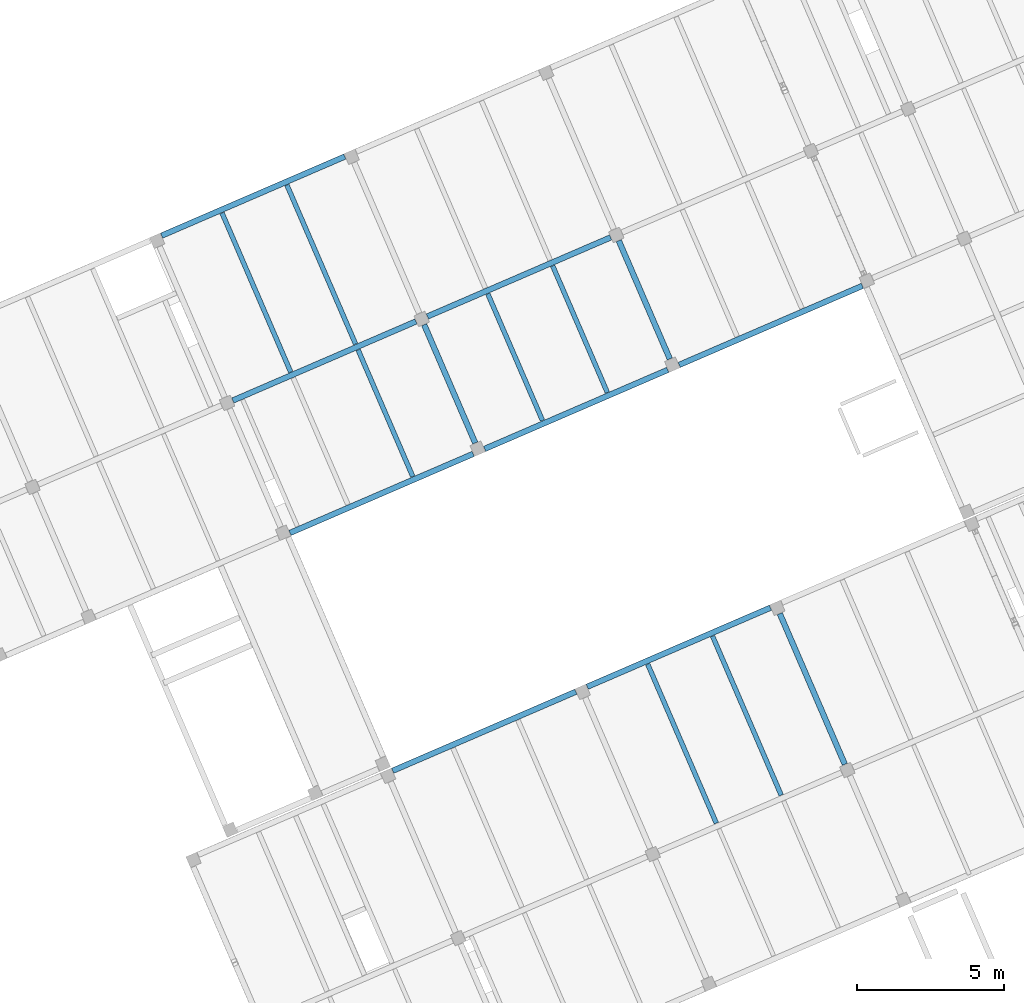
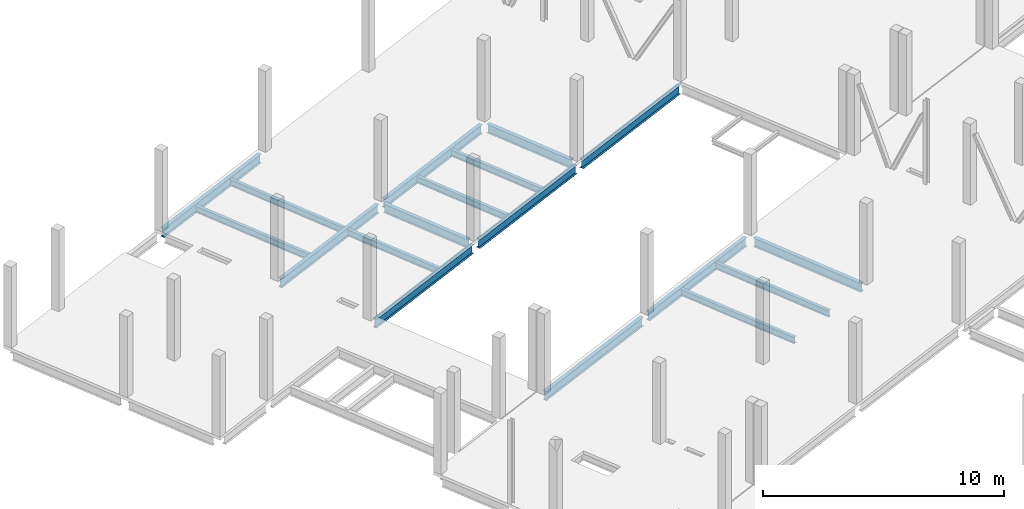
# One storey, part 15 of 24: 18 beams.
"""IFC4 building model written with IfcOpenShell, lengths in metres."""

from ifc_helpers import new_model, entity, si_unit, converted_unit, derived_unit, direction, frame, origin, place, context, subcontext, project, spatial, line, arc, indexed_curve, outline, extrude, source, transform, mapped, material, type_object, type_shapes, element, save


model = new_model("IFC4")

# Units and contexts
model_context = context("Model", 3, precision=1e-05, world=origin(), true_north=direction((6.12323399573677e-17, 1.0)))
body_context = subcontext(model_context, "Body", "Model", "MODEL_VIEW")
ifc_project = project(units=[si_unit("LENGTHUNIT", "METRE"), si_unit("AREAUNIT", "SQUARE_METRE"), si_unit("VOLUMEUNIT", "CUBIC_METRE"), converted_unit("PLANEANGLEUNIT", "DEGREE", entity("IfcPlaneAngleMeasure", 0.0174532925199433), si_unit("PLANEANGLEUNIT", "RADIAN"), dimensions=[0, 0, 0, 0, 0, 0, 0]), si_unit("MASSUNIT", "GRAM", prefix="KILO"), derived_unit("MOMENTOFINERTIAUNIT", [(si_unit("LENGTHUNIT", "METRE"), 4)]), derived_unit("LINEARFORCEUNIT", [(si_unit("MASSUNIT", "GRAM", prefix="KILO"), 1), (si_unit("TIMEUNIT", "SECOND"), -2)]), derived_unit("WARPINGCONSTANTUNIT", [(si_unit("LENGTHUNIT", "METRE"), 6)]), derived_unit("THERMALTRANSMITTANCEUNIT", [(si_unit("MASSUNIT", "GRAM", prefix="KILO"), 1), (si_unit("THERMODYNAMICTEMPERATUREUNIT", "KELVIN"), -1), (si_unit("TIMEUNIT", "SECOND"), -3)]), derived_unit("USERDEFINED", [(si_unit("MASSUNIT", "GRAM", prefix="KILO"), 1), (si_unit("TIMEUNIT", "SECOND"), -2), (si_unit("THERMODYNAMICTEMPERATUREUNIT", "KELVIN"), -1)]), derived_unit("THERMALRESISTANCEUNIT", [(si_unit("MASSUNIT", "GRAM", prefix="KILO"), -1), (si_unit("TIMEUNIT", "SECOND"), 3), (si_unit("THERMODYNAMICTEMPERATUREUNIT", "KELVIN"), 1)])], contexts=[model_context])

# Site, building, storey
site_placement = place(None, origin())
site = spatial("IfcSite", under=ifc_project, at=site_placement, Name="Default", CompositionType="ELEMENT")
building_placement = place(site_placement, frame((12.6613425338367, -82.5732315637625, 317.15), z_axis=(0.0, 0.0, 1.0), x_axis=(-0.396377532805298, 0.918087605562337, 0.0)))
building = spatial("IfcBuilding", under=site, at=building_placement, Name="CESFAM Coyhaique", CompositionType="ELEMENT")
storey_placement = place(building_placement, frame((0.0, 0.0, 4.20000000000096)))
storey = spatial("IfcBuildingStorey", under=building, at=storey_placement, Name="Nivel 2", CompositionType="ELEMENT", Elevation=4.20000000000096)

# Beams
ifc_material = material(Name="Steel, 45-345", Category="Metal")
beam_type_1 = type_object("IfcBeamType", Name="M_W Shapes:W450X190mm", PredefinedType="BEAM", material=ifc_material)
shared_shape_1 = source(origin(), body_context, "Body", "SweptSolid", [
    extrude(outline(indexed_curve([(-0.0950000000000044, -0.225000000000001), (0.0949999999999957, -0.225000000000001), (0.0949999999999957, -0.21535), (0.0105699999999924, -0.21535), (0.00516063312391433, -0.213109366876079), (0.00291999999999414, -0.2077), (0.00291999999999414, 0.207699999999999), (0.00516063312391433, 0.213109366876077), (0.0105699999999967, 0.21535), (0.0949999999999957, 0.21535), (0.0949999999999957, 0.224999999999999), (-0.0950000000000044, 0.224999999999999), (-0.0950000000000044, 0.21535), (-0.0105700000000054, 0.215349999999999), (-0.00516063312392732, 0.213109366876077), (-0.00292000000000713, 0.207699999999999), (-0.00292000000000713, -0.2077), (-0.00516063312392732, -0.213109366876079), (-0.0105700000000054, -0.21535), (-0.0950000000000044, -0.21535)], segments=[line(1, 2, 3, 4), arc(4, 5, 6), line(6, 7), arc(7, 8, 9), line(9, 10, 11, 12, 13, 14), arc(14, 15, 16), line(16, 17), arc(17, 18, 19), line(19, 20, 1)], self_intersect=False)), frame((34.868853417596, 3.0155504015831, 3.82500000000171), z_axis=(0.0, 1.0, 0.0), x_axis=(-1.0, 0.0, 0.0)), (0.0, 0.0, 1.0), 6.7746),
])
type_shapes(beam_type_1, [shared_shape_1])
beam_1_placement = place(storey_placement, frame((0.0, 0.0, -4.20000000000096)))
element("IfcBeam", 1, at=beam_1_placement, inside=storey, type_object=beam_type_1, Name="M_W Shapes:W450X190mm", ObjectType="M_W Shapes:W450X190mm", PredefinedType="BEAM", context=body_context, shape_type="MappedRepresentation", body=[
    mapped(shared_shape_1, transform((0.0, 0.0, 0.0), scale=1.0)),
])
beam_type_2 = type_object("IfcBeamType", Name="M_W Shapes:W450X190mm", PredefinedType="BEAM", material=ifc_material)
shared_shape_2 = source(origin(), body_context, "Body", "SweptSolid", [
    extrude(outline(indexed_curve([(-0.0950000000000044, -0.225000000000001), (0.0949999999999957, -0.225000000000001), (0.0949999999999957, -0.21535), (0.0105699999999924, -0.21535), (0.00516063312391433, -0.213109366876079), (0.00291999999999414, -0.2077), (0.00291999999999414, 0.207699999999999), (0.00516063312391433, 0.213109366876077), (0.0105699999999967, 0.21535), (0.0949999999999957, 0.21535), (0.0949999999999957, 0.224999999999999), (-0.0950000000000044, 0.224999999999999), (-0.0950000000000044, 0.21535), (-0.0105700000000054, 0.215349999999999), (-0.00516063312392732, 0.213109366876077), (-0.00292000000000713, 0.207699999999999), (-0.00292000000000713, -0.2077), (-0.00516063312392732, -0.213109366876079), (-0.0105700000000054, -0.21535), (-0.0950000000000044, -0.21535)], segments=[line(1, 2, 3, 4), arc(4, 5, 6), line(6, 7), arc(7, 8, 9), line(9, 10, 11, 12, 13, 14), arc(14, 15, 16), line(16, 17), arc(17, 18, 19), line(19, 20, 1)], self_intersect=False)), frame((34.868853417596, -4.18444959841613, 3.82500000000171), z_axis=(0.0, 1.0, 0.0), x_axis=(-1.0, 0.0, 0.0)), (0.0, 0.0, 1.0), 6.7746),
])
type_shapes(beam_type_2, [shared_shape_2])
beam_2_placement = place(storey_placement, frame((0.0, 0.0, -4.20000000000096)))
element("IfcBeam", 2, at=beam_2_placement, inside=storey, type_object=beam_type_2, Name="M_W Shapes:W450X190mm", ObjectType="M_W Shapes:W450X190mm", PredefinedType="BEAM", context=body_context, shape_type="MappedRepresentation", body=[
    mapped(shared_shape_2, transform((0.0, 0.0, 0.0), scale=1.0)),
])
beam_type_3 = type_object("IfcBeamType", Name="M_W Shapes:W450X190mm", PredefinedType="BEAM", material=ifc_material)
shared_shape_3 = source(origin(), body_context, "Body", "SweptSolid", [
    extrude(outline(indexed_curve([(-0.225, -0.0950000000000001), (-0.215350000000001, -0.0950000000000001), (-0.21535, -0.01057), (-0.213109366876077, -0.00516063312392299), (-0.2077, -0.00291999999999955), (0.207699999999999, -0.00292000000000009), (0.213109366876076, -0.00516063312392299), (0.215349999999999, -0.01057), (0.215349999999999, -0.0950000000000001), (0.225, -0.0950000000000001), (0.225, 0.0950000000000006), (0.215349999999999, 0.0950000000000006), (0.215349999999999, 0.0105700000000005), (0.213109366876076, 0.00516063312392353), (0.207699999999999, 0.00292000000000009), (-0.2077, 0.00292000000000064), (-0.213109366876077, 0.00516063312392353), (-0.215350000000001, 0.0105700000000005), (-0.215350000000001, 0.0949999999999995), (-0.225, 0.0949999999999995)], segments=[line(1, 2, 3), arc(3, 4, 5), line(5, 6), arc(6, 7, 8), line(8, 9, 10, 11, 12, 13), arc(13, 14, 15), line(15, 16), arc(16, 17, 18), line(18, 19, 20, 1)], self_intersect=False)), frame((28.981553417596, -4.39714959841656, 3.82500000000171), z_axis=(1.0, 0.0, 0.0), x_axis=(0.0, 0.0, -1.0)), (0.0, 0.0, 1.0), 5.5746),
])
type_shapes(beam_type_3, [shared_shape_3])
beam_3_placement = place(storey_placement, frame((0.0, 0.0, -4.20000000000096)))
element("IfcBeam", 3, at=beam_3_placement, inside=storey, type_object=beam_type_3, Name="M_W Shapes:W450X190mm", ObjectType="M_W Shapes:W450X190mm", PredefinedType="BEAM", context=body_context, shape_type="MappedRepresentation", body=[
    mapped(shared_shape_3, transform((0.0, 0.0, 0.0), scale=1.0)),
])
beam_type_4 = type_object("IfcBeamType", Name="M_W Shapes:W450X190mm", PredefinedType="BEAM", material=ifc_material)
shared_shape_4 = source(origin(), body_context, "Body", "SweptSolid", [
    extrude(outline(indexed_curve([(-0.0949999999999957, -0.225000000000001), (0.0950000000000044, -0.225000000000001), (0.0950000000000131, -0.21535), (0.0105700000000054, -0.21535), (0.00516063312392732, -0.213109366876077), (0.00292000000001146, -0.2077), (0.0029200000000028, 0.207699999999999), (0.00516063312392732, 0.213109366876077), (0.0105700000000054, 0.21535), (0.0950000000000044, 0.21535), (0.0950000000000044, 0.224999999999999), (-0.0949999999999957, 0.224999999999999), (-0.0949999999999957, 0.21535), (-0.0105699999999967, 0.215349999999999), (-0.00516063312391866, 0.213109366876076), (-0.00291999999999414, 0.207699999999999), (-0.00291999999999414, -0.2077), (-0.00516063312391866, -0.213109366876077), (-0.0105699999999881, -0.21535), (-0.0949999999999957, -0.21535)], segments=[line(1, 2, 3, 4), arc(4, 5, 6), line(6, 7), arc(7, 8, 9), line(9, 10, 11, 12, 13, 14), arc(14, 15, 16), line(16, 17), arc(17, 18, 19), line(19, 20, 1)], self_intersect=False)), frame((43.6688534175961, -11.384449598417, 3.82500000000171), z_axis=(0.0, 1.0, 0.0), x_axis=(-1.0, 0.0, 0.0)), (0.0, 0.0, 1.0), 6.7746),
])
type_shapes(beam_type_4, [shared_shape_4])
beam_4_placement = place(storey_placement, frame((0.0, 0.0, -4.20000000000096)))
element("IfcBeam", 4, at=beam_4_placement, inside=storey, type_object=beam_type_4, Name="M_W Shapes:W450X190mm", ObjectType="M_W Shapes:W450X190mm", PredefinedType="BEAM", context=body_context, shape_type="MappedRepresentation", body=[
    mapped(shared_shape_4, transform((0.0, 0.0, 0.0), scale=1.0)),
])
beam_type_5 = type_object("IfcBeamType", Name="M_W Shapes:W450X190mm", PredefinedType="BEAM", material=ifc_material)
shared_shape_5 = source(origin(), body_context, "Body", "SweptSolid", [
    extrude(outline(indexed_curve([(-0.0949999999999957, -0.225000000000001), (0.0950000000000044, -0.225000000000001), (0.0950000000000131, -0.21535), (0.0105700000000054, -0.21535), (0.00516063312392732, -0.213109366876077), (0.00292000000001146, -0.2077), (0.0029200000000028, 0.207699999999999), (0.00516063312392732, 0.213109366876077), (0.0105700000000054, 0.21535), (0.0950000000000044, 0.21535), (0.0950000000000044, 0.224999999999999), (-0.0949999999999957, 0.224999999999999), (-0.0949999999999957, 0.21535), (-0.0105699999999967, 0.215349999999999), (-0.00516063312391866, 0.213109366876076), (-0.00291999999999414, 0.207699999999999), (-0.00291999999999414, -0.2077), (-0.00516063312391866, -0.213109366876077), (-0.0105699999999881, -0.21535), (-0.0949999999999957, -0.21535)], segments=[line(1, 2, 3, 4), arc(4, 5, 6), line(6, 7), arc(7, 8, 9), line(9, 10, 11, 12, 13, 14), arc(14, 15, 16), line(16, 17), arc(17, 18, 19), line(19, 20, 1)], self_intersect=False)), frame((43.6688534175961, 3.0155504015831, 3.82500000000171), z_axis=(0.0, 1.0, 0.0), x_axis=(-1.0, 0.0, 0.0)), (0.0, 0.0, 1.0), 6.7746),
])
type_shapes(beam_type_5, [shared_shape_5])
beam_5_placement = place(storey_placement, frame((0.0, 0.0, -4.20000000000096)))
element("IfcBeam", 5, at=beam_5_placement, inside=storey, type_object=beam_type_5, Name="M_W Shapes:W450X190mm", ObjectType="M_W Shapes:W450X190mm", PredefinedType="BEAM", context=body_context, shape_type="MappedRepresentation", body=[
    mapped(shared_shape_5, transform((0.0, 0.0, 0.0), scale=1.0)),
])
beam_type_6 = type_object("IfcBeamType", Name="M_W Shapes:W450X190mm", PredefinedType="BEAM", material=ifc_material)
shared_shape_6 = source(origin(), body_context, "Body", "SweptSolid", [
    extrude(outline(indexed_curve([(-0.0949999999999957, -0.225000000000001), (0.0950000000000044, -0.225000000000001), (0.0950000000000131, -0.21535), (0.0105700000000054, -0.21535), (0.00516063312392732, -0.213109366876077), (0.00292000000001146, -0.2077), (0.0029200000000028, 0.207699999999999), (0.00516063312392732, 0.213109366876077), (0.0105700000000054, 0.21535), (0.0950000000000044, 0.21535), (0.0950000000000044, 0.224999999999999), (-0.0949999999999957, 0.224999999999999), (-0.0949999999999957, 0.21535), (-0.0105699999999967, 0.215349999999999), (-0.00516063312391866, 0.213109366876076), (-0.00291999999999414, 0.207699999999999), (-0.00291999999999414, -0.2077), (-0.00516063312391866, -0.213109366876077), (-0.0105699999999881, -0.21535), (-0.0949999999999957, -0.21535)], segments=[line(1, 2, 3, 4), arc(4, 5, 6), line(6, 7), arc(7, 8, 9), line(9, 10, 11, 12, 13, 14), arc(14, 15, 16), line(16, 17), arc(17, 18, 19), line(19, 20, 1)], self_intersect=False)), frame((43.6688534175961, -4.18444959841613, 3.82500000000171), z_axis=(0.0, 1.0, 0.0), x_axis=(-1.0, 0.0, 0.0)), (0.0, 0.0, 1.0), 6.7746),
])
type_shapes(beam_type_6, [shared_shape_6])
beam_6_placement = place(storey_placement, frame((0.0, 0.0, -4.20000000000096)))
element("IfcBeam", 6, at=beam_6_placement, inside=storey, type_object=beam_type_6, Name="M_W Shapes:W450X190mm", ObjectType="M_W Shapes:W450X190mm", PredefinedType="BEAM", context=body_context, shape_type="MappedRepresentation", body=[
    mapped(shared_shape_6, transform((0.0, 0.0, 0.0), scale=1.0)),
])
beam_type_7 = type_object("IfcBeamType", Name="M_W Shapes:W450X190mm", PredefinedType="BEAM", material=ifc_material)
shared_shape_7 = source(origin(), body_context, "Body", "SweptSolid", [
    extrude(outline(indexed_curve([(-0.0950000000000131, -0.225000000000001), (0.0949999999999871, -0.225000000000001), (0.0949999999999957, -0.21535), (0.0105699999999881, -0.21535), (0.00516063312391, -0.213109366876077), (0.00291999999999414, -0.2077), (0.00291999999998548, 0.207699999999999), (0.00516063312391, 0.213109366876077), (0.0105699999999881, 0.21535), (0.0949999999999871, 0.21535), (0.0949999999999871, 0.224999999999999), (-0.0950000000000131, 0.224999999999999), (-0.0950000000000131, 0.21535), (-0.0105700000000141, 0.215349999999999), (-0.00516063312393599, 0.213109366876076), (-0.00292000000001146, 0.207699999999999), (-0.00292000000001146, -0.2077), (-0.00516063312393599, -0.213109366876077), (-0.0105700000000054, -0.21535), (-0.0950000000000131, -0.21535)], segments=[line(1, 2, 3, 4), arc(4, 5, 6), line(6, 7), arc(7, 8, 9), line(9, 10, 11, 12, 13, 14), arc(14, 15, 16), line(16, 17), arc(17, 18, 19), line(19, 20, 1)], self_intersect=False)), frame((48.5688534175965, 3.0155504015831, 3.82500000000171), z_axis=(0.0, 1.0, 0.0), x_axis=(-1.0, 0.0, 0.0)), (0.0, 0.0, 1.0), 6.7746),
])
type_shapes(beam_type_7, [shared_shape_7])
beam_7_placement = place(storey_placement, frame((0.0, 0.0, -4.20000000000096)))
element("IfcBeam", 7, at=beam_7_placement, inside=storey, type_object=beam_type_7, Name="M_W Shapes:W450X190mm", ObjectType="M_W Shapes:W450X190mm", PredefinedType="BEAM", context=body_context, shape_type="MappedRepresentation", body=[
    mapped(shared_shape_7, transform((0.0, 0.0, 0.0), scale=1.0)),
])
beam_type_8 = type_object("IfcBeamType", Name="M_W Shapes:W450X190mm", PredefinedType="BEAM", material=ifc_material)
shared_shape_8 = source(origin(), body_context, "Body", "SweptSolid", [
    extrude(outline(indexed_curve([(-0.0950000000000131, -0.225000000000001), (0.0949999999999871, -0.225000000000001), (0.0949999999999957, -0.21535), (0.0105699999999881, -0.21535), (0.00516063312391, -0.213109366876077), (0.00291999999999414, -0.2077), (0.00291999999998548, 0.207699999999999), (0.00516063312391, 0.213109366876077), (0.0105699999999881, 0.21535), (0.0949999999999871, 0.21535), (0.0949999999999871, 0.224999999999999), (-0.0950000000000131, 0.224999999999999), (-0.0950000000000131, 0.21535), (-0.0105700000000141, 0.215349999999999), (-0.00516063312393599, 0.213109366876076), (-0.00292000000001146, 0.207699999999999), (-0.00292000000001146, -0.2077), (-0.00516063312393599, -0.213109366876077), (-0.0105700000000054, -0.21535), (-0.0950000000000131, -0.21535)], segments=[line(1, 2, 3, 4), arc(4, 5, 6), line(6, 7), arc(7, 8, 9), line(9, 10, 11, 12, 13, 14), arc(14, 15, 16), line(16, 17), arc(17, 18, 19), line(19, 20, 1)], self_intersect=False)), frame((48.5688534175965, -4.18444959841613, 3.82500000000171), z_axis=(0.0, 1.0, 0.0), x_axis=(-1.0, 0.0, 0.0)), (0.0, 0.0, 1.0), 6.7746),
])
type_shapes(beam_type_8, [shared_shape_8])
beam_8_placement = place(storey_placement, frame((0.0, 0.0, -4.20000000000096)))
element("IfcBeam", 8, at=beam_8_placement, inside=storey, type_object=beam_type_8, Name="M_W Shapes:W450X190mm", ObjectType="M_W Shapes:W450X190mm", PredefinedType="BEAM", context=body_context, shape_type="MappedRepresentation", body=[
    mapped(shared_shape_8, transform((0.0, 0.0, 0.0), scale=1.0)),
])
beam_type_9 = type_object("IfcBeamType", Name="M_W Shapes:W450X190mm", PredefinedType="BEAM", material=ifc_material)
shared_shape_9 = source(origin(), body_context, "Body", "SweptSolid", [
    extrude(outline(indexed_curve([(-0.0950000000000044, -0.225000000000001), (0.0949999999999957, -0.225000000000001), (0.0950000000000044, -0.21535), (0.0105699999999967, -0.21535), (0.00516063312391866, -0.213109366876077), (0.0029200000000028, -0.2077), (0.00291999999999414, 0.207699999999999), (0.00516063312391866, 0.213109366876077), (0.0105699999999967, 0.21535), (0.0949999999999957, 0.21535), (0.0949999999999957, 0.224999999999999), (-0.0950000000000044, 0.224999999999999), (-0.0950000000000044, 0.21535), (-0.0105700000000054, 0.215349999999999), (-0.00516063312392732, 0.213109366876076), (-0.0029200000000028, 0.207699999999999), (-0.0029200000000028, -0.2077), (-0.00516063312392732, -0.213109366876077), (-0.0105699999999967, -0.21535), (-0.0950000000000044, -0.21535)], segments=[line(1, 2, 3, 4), arc(4, 5, 6), line(6, 7), arc(7, 8, 9), line(9, 10, 11, 12, 13, 14), arc(14, 15, 16), line(16, 17), arc(17, 18, 19), line(19, 20, 1)], self_intersect=False)), frame((54.6688534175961, 3.0155504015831, 3.82500000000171), z_axis=(0.0, 1.0, 0.0), x_axis=(-1.0, 0.0, 0.0)), (0.0, 0.0, 1.0), 6.7746),
])
type_shapes(beam_type_9, [shared_shape_9])
beam_9_placement = place(storey_placement, frame((0.0, 0.0, -4.20000000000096)))
element("IfcBeam", 9, at=beam_9_placement, inside=storey, type_object=beam_type_9, Name="M_W Shapes:W450X190mm", ObjectType="M_W Shapes:W450X190mm", PredefinedType="BEAM", context=body_context, shape_type="MappedRepresentation", body=[
    mapped(shared_shape_9, transform((0.0, 0.0, 0.0), scale=1.0)),
])
beam_type_10 = type_object("IfcBeamType", Name="M_W Shapes:W450X190mm", PredefinedType="BEAM", material=ifc_material)
shared_shape_10 = source(origin(), body_context, "Body", "SweptSolid", [
    extrude(outline(indexed_curve([(-0.225, -0.0950000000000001), (-0.215350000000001, -0.0950000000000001), (-0.21535, -0.01057), (-0.213109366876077, -0.00516063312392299), (-0.2077, -0.00291999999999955), (0.207699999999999, -0.00292000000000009), (0.213109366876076, -0.00516063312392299), (0.215349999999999, -0.01057), (0.215349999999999, -0.0950000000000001), (0.225, -0.0950000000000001), (0.225, 0.0950000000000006), (0.215349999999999, 0.0950000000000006), (0.215349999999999, 0.0105700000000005), (0.213109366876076, 0.00516063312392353), (0.207699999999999, 0.00292000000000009), (-0.2077, 0.00292000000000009), (-0.213109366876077, 0.00516063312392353), (-0.215350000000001, 0.0105700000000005), (-0.215350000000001, 0.0949999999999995), (-0.225, 0.0950000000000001)], segments=[line(1, 2, 3), arc(3, 4, 5), line(5, 6), arc(6, 7, 8), line(8, 9, 10, 11, 12, 13), arc(13, 14, 15), line(15, 16), arc(16, 17, 18), line(18, 19, 20, 1)], self_intersect=False)), frame((43.9815534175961, -4.39714959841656, 3.82500000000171), z_axis=(1.0, 0.0, 0.0), x_axis=(0.0, 0.0, -1.0)), (0.0, 0.0, 1.0), 4.3746),
])
type_shapes(beam_type_10, [shared_shape_10])
beam_10_placement = place(storey_placement, frame((0.0, 0.0, -4.20000000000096)))
element("IfcBeam", 10, at=beam_10_placement, inside=storey, type_object=beam_type_10, Name="M_W Shapes:W450X190mm", ObjectType="M_W Shapes:W450X190mm", PredefinedType="BEAM", context=body_context, shape_type="MappedRepresentation", body=[
    mapped(shared_shape_10, transform((0.0, 0.0, 0.0), scale=1.0)),
])
beam_type_11 = type_object("IfcBeamType", Name="M_W Shapes:W450X190mm", PredefinedType="BEAM", material=ifc_material)
shared_shape_11 = source(origin(), body_context, "Body", "SweptSolid", [
    extrude(outline(indexed_curve([(-0.225, -0.0950000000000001), (-0.215350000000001, -0.0950000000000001), (-0.21535, -0.01057), (-0.213109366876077, -0.00516063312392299), (-0.2077, -0.00291999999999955), (0.207699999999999, -0.00292000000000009), (0.213109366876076, -0.00516063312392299), (0.215349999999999, -0.01057), (0.215349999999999, -0.0950000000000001), (0.225, -0.0950000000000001), (0.225, 0.0950000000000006), (0.215349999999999, 0.0950000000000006), (0.215349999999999, 0.0105700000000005), (0.213109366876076, 0.00516063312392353), (0.207699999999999, 0.00292000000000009), (-0.2077, 0.00292000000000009), (-0.213109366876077, 0.00516063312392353), (-0.215350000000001, 0.0105700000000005), (-0.215350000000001, 0.0949999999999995), (-0.225, 0.0950000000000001)], segments=[line(1, 2, 3), arc(3, 4, 5), line(5, 6), arc(6, 7, 8), line(8, 9, 10, 11, 12, 13), arc(13, 14, 15), line(15, 16), arc(16, 17, 18), line(18, 19, 20, 1)], self_intersect=False)), frame((43.9815534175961, 2.8028504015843, 3.82500000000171), z_axis=(1.0, 0.0, 0.0), x_axis=(0.0, 0.0, -1.0)), (0.0, 0.0, 1.0), 4.3746),
])
type_shapes(beam_type_11, [shared_shape_11])
beam_11_placement = place(storey_placement, frame((0.0, 0.0, -4.20000000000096)))
element("IfcBeam", 11, at=beam_11_placement, inside=storey, type_object=beam_type_11, Name="M_W Shapes:W450X190mm", ObjectType="M_W Shapes:W450X190mm", PredefinedType="BEAM", context=body_context, shape_type="MappedRepresentation", body=[
    mapped(shared_shape_11, transform((0.0, 0.0, 0.0), scale=1.0)),
])
beam_type_12 = type_object("IfcBeamType", Name="M_W Shapes:W330X160mm", PredefinedType="BEAM", material=ifc_material)
shared_shape_12 = source(origin(), body_context, "Body", "SweptSolid", [
    extrude(outline(indexed_curve([(-0.164999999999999, -0.0799999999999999), (-0.15535, -0.0799999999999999), (-0.15535, -0.0105699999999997), (-0.153109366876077, -0.00516063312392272), (-0.1477, -0.00291999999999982), (0.1477, -0.00291999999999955), (0.153109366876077, -0.00516063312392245), (0.15535, -0.0105699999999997), (0.15535, -0.0799999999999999), (0.165, -0.0799999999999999), (0.165000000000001, 0.0800000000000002), (0.15535, 0.0800000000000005), (0.15535, 0.0105700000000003), (0.153109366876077, 0.00516063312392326), (0.1477, 0.00292000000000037), (-0.1477, 0.00292000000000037), (-0.153109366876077, 0.00516063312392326), (-0.15535, 0.0105700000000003), (-0.15535, 0.0799999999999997), (-0.164999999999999, 0.0799999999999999)], segments=[line(1, 2, 3), arc(3, 4, 5), line(5, 6), arc(6, 7, 8), line(8, 9, 10, 11, 12, 13), arc(13, 14, 15), line(15, 16), arc(16, 17, 18), line(18, 19, 20, 1)], self_intersect=False)), frame((43.7765534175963, -1.9971495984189, 3.88500000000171), z_axis=(1.0, 0.0, 0.0), x_axis=(0.0, 0.0, -1.0)), (0.0, 0.0, 1.0), 4.6846),
])
type_shapes(beam_type_12, [shared_shape_12])
beam_12_placement = place(storey_placement, frame((0.0, 0.0, -4.20000000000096)))
element("IfcBeam", 12, at=beam_12_placement, inside=storey, type_object=beam_type_12, Name="M_W Shapes:W330X160mm", ObjectType="M_W Shapes:W330X160mm", PredefinedType="BEAM", context=body_context, shape_type="MappedRepresentation", body=[
    mapped(shared_shape_12, transform((0.0, 0.0, 0.0), scale=1.0)),
])
beam_type_13 = type_object("IfcBeamType", Name="M_W Shapes:W330X160mm", PredefinedType="BEAM", material=ifc_material)
shared_shape_13 = source(origin(), body_context, "Body", "SweptSolid", [
    extrude(outline(indexed_curve([(-0.164999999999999, -0.0800000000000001), (-0.15535, -0.0800000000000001), (-0.15535, -0.01057), (-0.153109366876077, -0.00516063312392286), (-0.1477, -0.00291999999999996), (0.1477, -0.00291999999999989), (0.153109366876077, -0.00516063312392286), (0.15535, -0.01057), (0.15535, -0.0800000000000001), (0.165, -0.08), (0.165000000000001, 0.0800000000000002), (0.15535, 0.0800000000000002), (0.15535, 0.0105700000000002), (0.153109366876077, 0.00516063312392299), (0.1477, 0.00292000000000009), (-0.1477, 0.00292000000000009), (-0.153109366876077, 0.00516063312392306), (-0.15535, 0.0105700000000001), (-0.15535, 0.0799999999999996), (-0.164999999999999, 0.0799999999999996)], segments=[line(1, 2, 3), arc(3, 4, 5), line(5, 6), arc(6, 7, 8), line(8, 9, 10, 11, 12, 13), arc(13, 14, 15), line(15, 16), arc(16, 17, 18), line(18, 19, 20, 1)], self_intersect=False)), frame((43.7765534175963, 0.402850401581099, 3.88500000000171), z_axis=(1.0, 0.0, 0.0), x_axis=(0.0, 0.0, -1.0)), (0.0, 0.0, 1.0), 4.6846),
])
type_shapes(beam_type_13, [shared_shape_13])
beam_13_placement = place(storey_placement, frame((0.0, 0.0, -4.20000000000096)))
element("IfcBeam", 13, at=beam_13_placement, inside=storey, type_object=beam_type_13, Name="M_W Shapes:W330X160mm", ObjectType="M_W Shapes:W330X160mm", PredefinedType="BEAM", context=body_context, shape_type="MappedRepresentation", body=[
    mapped(shared_shape_13, transform((0.0, 0.0, 0.0), scale=1.0)),
])
beam_type_14 = type_object("IfcBeamType", Name="M_W Shapes:W330X160mm", PredefinedType="BEAM", material=ifc_material)
shared_shape_14 = source(origin(), body_context, "Body", "SweptSolid", [
    extrude(outline(indexed_curve([(-0.164999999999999, -0.0800000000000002), (-0.15535, -0.0800000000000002), (-0.15535, -0.01057), (-0.153109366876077, -0.00516063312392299), (-0.1477, -0.00292000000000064), (0.1477, -0.00292000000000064), (0.153109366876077, -0.00516063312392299), (0.15535, -0.01057), (0.15535, -0.0800000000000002), (0.165, -0.0800000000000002), (0.165, 0.0800000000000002), (0.15535, 0.0800000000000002), (0.15535, 0.01057), (0.153109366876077, 0.00516063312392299), (0.1477, 0.00291999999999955), (-0.1477, 0.00291999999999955), (-0.153109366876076, 0.00516063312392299), (-0.15535, 0.01057), (-0.15535, 0.0799999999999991), (-0.164999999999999, 0.0799999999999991)], segments=[line(1, 2, 3), arc(3, 4, 5), line(5, 6), arc(6, 7, 8), line(8, 9, 10, 11, 12, 13), arc(13, 14, 15), line(15, 16), arc(16, 17, 18), line(18, 19, 20, 1)], self_intersect=False)), frame((48.6765534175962, 5.20285040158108, 3.88500000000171), z_axis=(1.0, 0.0, 0.0), x_axis=(0.0, 0.0, -1.0)), (0.0, 0.0, 1.0), 5.88460000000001),
])
type_shapes(beam_type_14, [shared_shape_14])
beam_14_placement = place(storey_placement, frame((0.0, 0.0, -4.20000000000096)))
element("IfcBeam", 14, at=beam_14_placement, inside=storey, type_object=beam_type_14, Name="M_W Shapes:W330X160mm", ObjectType="M_W Shapes:W330X160mm", PredefinedType="BEAM", context=body_context, shape_type="MappedRepresentation", body=[
    mapped(shared_shape_14, transform((0.0, 0.0, 0.0), scale=1.0)),
])
beam_type_15 = type_object("IfcBeamType", Name="M_W Shapes:W330X160mm", PredefinedType="BEAM", material=ifc_material)
shared_shape_15 = source(origin(), body_context, "Body", "SweptSolid", [
    extrude(outline(indexed_curve([(-0.164999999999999, -0.0799999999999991), (-0.15535, -0.0799999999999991), (-0.15535, -0.0105699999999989), (-0.153109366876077, -0.00516063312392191), (-0.1477, -0.00291999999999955), (0.1477, -0.00291999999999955), (0.153109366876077, -0.00516063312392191), (0.15535, -0.0105699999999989), (0.15535, -0.0799999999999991), (0.165, -0.0799999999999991), (0.165000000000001, 0.0800000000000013), (0.15535, 0.0800000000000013), (0.15535, 0.0105700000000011), (0.153109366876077, 0.00516063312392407), (0.1477, 0.00292000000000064), (-0.1477, 0.00292000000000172), (-0.153109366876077, 0.00516063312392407), (-0.15535, 0.01057), (-0.15535, 0.0800000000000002), (-0.164999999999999, 0.0800000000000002)], segments=[line(1, 2, 3), arc(3, 4, 5), line(5, 6), arc(6, 7, 8), line(8, 9, 10, 11, 12, 13), arc(13, 14, 15), line(15, 16), arc(16, 17, 18), line(18, 19, 20, 1)], self_intersect=False)), frame((43.7765534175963, 5.2028504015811, 3.88500000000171), z_axis=(1.0, 0.0, 0.0), x_axis=(0.0, 0.0, -1.0)), (0.0, 0.0, 1.0), 4.6846),
])
type_shapes(beam_type_15, [shared_shape_15])
beam_15_placement = place(storey_placement, frame((0.0, 0.0, -4.20000000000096)))
element("IfcBeam", 15, at=beam_15_placement, inside=storey, type_object=beam_type_15, Name="M_W Shapes:W330X160mm", ObjectType="M_W Shapes:W330X160mm", PredefinedType="BEAM", context=body_context, shape_type="MappedRepresentation", body=[
    mapped(shared_shape_15, transform((0.0, 0.0, 0.0), scale=1.0)),
])
beam_type_16 = type_object("IfcBeamType", Name="M_W Shapes:W330X160mm", PredefinedType="BEAM", material=ifc_material)
shared_shape_16 = source(origin(), body_context, "Body", "SweptSolid", [
    extrude(outline(indexed_curve([(-0.164999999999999, -0.0800000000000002), (-0.15535, -0.0800000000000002), (-0.15535, -0.01057), (-0.153109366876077, -0.00516063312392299), (-0.1477, -0.00292000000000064), (0.1477, -0.00292000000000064), (0.153109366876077, -0.00516063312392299), (0.15535, -0.01057), (0.15535, -0.0800000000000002), (0.165, -0.0800000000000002), (0.165, 0.0800000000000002), (0.15535, 0.0800000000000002), (0.15535, 0.01057), (0.153109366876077, 0.00516063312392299), (0.1477, 0.00291999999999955), (-0.1477, 0.00291999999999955), (-0.153109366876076, 0.00516063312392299), (-0.15535, 0.01057), (-0.15535, 0.0799999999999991), (-0.164999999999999, 0.0799999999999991)], segments=[line(1, 2, 3), arc(3, 4, 5), line(5, 6), arc(6, 7, 8), line(8, 9, 10, 11, 12, 13), arc(13, 14, 15), line(15, 16), arc(16, 17, 18), line(18, 19, 20, 1)], self_intersect=False)), frame((48.6765534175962, 7.60285040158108, 3.88500000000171), z_axis=(1.0, 0.0, 0.0), x_axis=(0.0, 0.0, -1.0)), (0.0, 0.0, 1.0), 5.88460000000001),
])
type_shapes(beam_type_16, [shared_shape_16])
beam_16_placement = place(storey_placement, frame((0.0, 0.0, -4.20000000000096)))
element("IfcBeam", 16, at=beam_16_placement, inside=storey, type_object=beam_type_16, Name="M_W Shapes:W330X160mm", ObjectType="M_W Shapes:W330X160mm", PredefinedType="BEAM", context=body_context, shape_type="MappedRepresentation", body=[
    mapped(shared_shape_16, transform((0.0, 0.0, 0.0), scale=1.0)),
])
beam_type_17 = type_object("IfcBeamType", Name="M_W Shapes:W330X160mm", PredefinedType="BEAM", material=ifc_material)
shared_shape_17 = source(origin(), body_context, "Body", "SweptSolid", [
    extrude(outline(indexed_curve([(-0.164999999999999, -0.0799999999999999), (-0.15535, -0.0799999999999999), (-0.15535, -0.0105699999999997), (-0.153109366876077, -0.00516063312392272), (-0.1477, -0.00291999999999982), (0.1477, -0.00291999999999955), (0.153109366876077, -0.00516063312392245), (0.15535, -0.0105699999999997), (0.15535, -0.0799999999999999), (0.165, -0.0799999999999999), (0.165, 0.0800000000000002), (0.15535, 0.0800000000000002), (0.15535, 0.0105700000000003), (0.153109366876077, 0.00516063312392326), (0.1477, 0.00292000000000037), (-0.1477, 0.00292000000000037), (-0.153109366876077, 0.00516063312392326), (-0.15535, 0.0105700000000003), (-0.15535, 0.0799999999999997), (-0.164999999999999, 0.0799999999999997)], segments=[line(1, 2, 3), arc(3, 4, 5), line(5, 6), arc(6, 7, 8), line(8, 9, 10, 11, 12, 13), arc(13, 14, 15), line(15, 16), arc(16, 17, 18), line(18, 19, 20, 1)], self_intersect=False)), frame((28.876553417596, -1.99714959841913, 3.88500000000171), z_axis=(1.0, 0.0, 0.0), x_axis=(0.0, 0.0, -1.0)), (0.0, 0.0, 1.0), 5.8846),
])
type_shapes(beam_type_17, [shared_shape_17])
beam_17_placement = place(storey_placement, frame((0.0, 0.0, -4.20000000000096)))
element("IfcBeam", 17, at=beam_17_placement, inside=storey, type_object=beam_type_17, Name="M_W Shapes:W330X160mm", ObjectType="M_W Shapes:W330X160mm", PredefinedType="BEAM", context=body_context, shape_type="MappedRepresentation", body=[
    mapped(shared_shape_17, transform((0.0, 0.0, 0.0), scale=1.0)),
])
beam_type_18 = type_object("IfcBeamType", Name="M_W Shapes:W330X160mm", PredefinedType="BEAM", material=ifc_material)
shared_shape_18 = source(origin(), body_context, "Body", "SweptSolid", [
    extrude(outline(indexed_curve([(-0.164999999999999, -0.0800000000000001), (-0.15535, -0.0800000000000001), (-0.15535, -0.01057), (-0.153109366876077, -0.00516063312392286), (-0.1477, -0.00291999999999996), (0.1477, -0.00291999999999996), (0.153109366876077, -0.00516063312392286), (0.15535, -0.01057), (0.15535, -0.0800000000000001), (0.165, -0.0800000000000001), (0.165, 0.0800000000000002), (0.15535, 0.0800000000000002), (0.15535, 0.0105700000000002), (0.153109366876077, 0.00516063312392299), (0.1477, 0.00292000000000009), (-0.1477, 0.00292000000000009), (-0.153109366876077, 0.00516063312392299), (-0.15535, 0.0105700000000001), (-0.15535, 0.0799999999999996), (-0.164999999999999, 0.0799999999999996)], segments=[line(1, 2, 3), arc(3, 4, 5), line(5, 6), arc(6, 7, 8), line(8, 9, 10, 11, 12, 13), arc(13, 14, 15), line(15, 16), arc(16, 17, 18), line(18, 19, 20, 1)], self_intersect=False)), frame((28.876553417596, 0.402850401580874, 3.88500000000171), z_axis=(1.0, 0.0, 0.0), x_axis=(0.0, 0.0, -1.0)), (0.0, 0.0, 1.0), 5.8846),
])
type_shapes(beam_type_18, [shared_shape_18])
beam_18_placement = place(storey_placement, frame((0.0, 0.0, -4.20000000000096)))
element("IfcBeam", 18, at=beam_18_placement, inside=storey, type_object=beam_type_18, Name="M_W Shapes:W330X160mm", ObjectType="M_W Shapes:W330X160mm", PredefinedType="BEAM", context=body_context, shape_type="MappedRepresentation", body=[
    mapped(shared_shape_18, transform((0.0, 0.0, 0.0), scale=1.0)),
])

save(model, "model.ifc")
